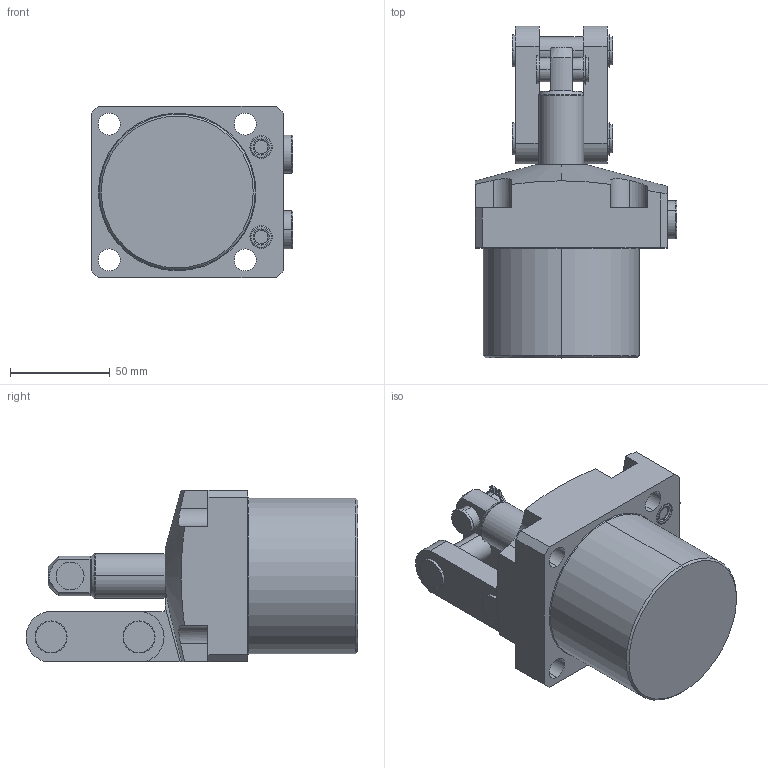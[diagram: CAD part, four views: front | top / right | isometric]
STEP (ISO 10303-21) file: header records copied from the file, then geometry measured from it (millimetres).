
FILE_DESCRIPTION(/* description */ (''),/* implementation_level */ '2;1');
FILE_NAME(/* name */ 'TPC16-R.stp',/* time_stamp */ '2025-01-05T10:26:42+08:00',/* author */ (''),/* organization */ (''),/* preprocessor_version */ 'ST-DEVELOPER v16.7',/* originating_system */ 'SIEMENS PLM Software NX 12.0',/* authorisation */ '');
FILE_SCHEMA (('AUTOMOTIVE_DESIGN { 1 0 10303 214 3 1 1 1 }'));
Length unit declared in the file: millimetre
Products named in the file (5): TPC16-R-01; TPC16-R-02; TPC16-R-03; TPC16-R-04; TPC16-R_stp
Assembly tree (5 placements, depth 2):
  TPC16-R_stp
    TPC16-R-04  x2
    TPC16-R-03
    TPC16-R-02
    TPC16-R-01
Bounding box: 100.8 x 166 x 86 mm (x, y, z)
Volume: 602682.5 mm3; surface area: 72405.1 mm2
Topology: 5 solids, 7 shells, 281 faces, 664 edges, 422 vertices
Faces by surface type: cylinder 116, plane 111, torus 34, cone 20
Entity records: 7837 total; most frequent: CARTESIAN_POINT 1469, DIRECTION 1406, ORIENTED_EDGE 1236, EDGE_CURVE 618, AXIS2_PLACEMENT_3D 560, VERTEX_POINT 394, EDGE_LOOP 302, CIRCLE 295
